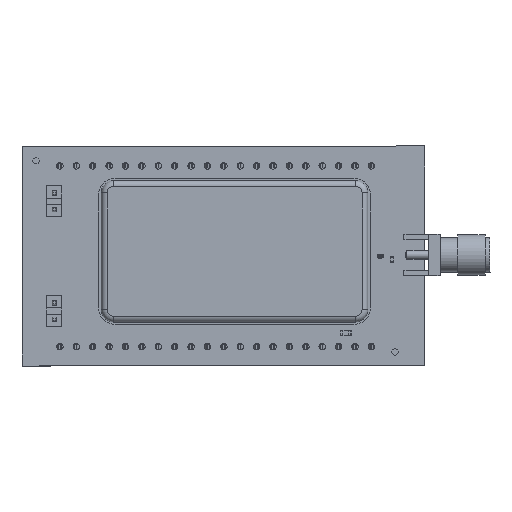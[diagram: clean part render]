
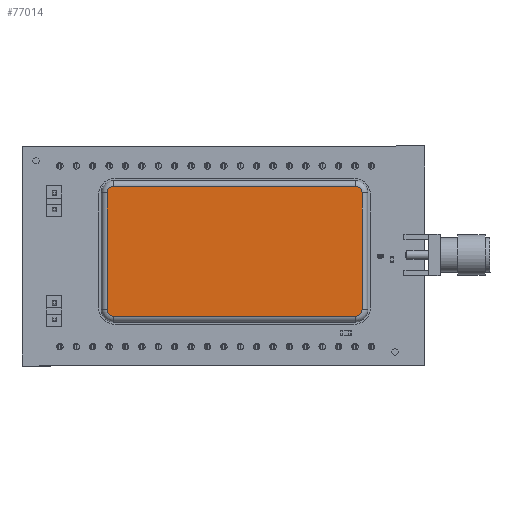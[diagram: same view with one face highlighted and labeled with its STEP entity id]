
A CAD part, top view. The second image highlights one B-rep face of the part: STEP entity #77014.
In plain terms, the highlighted planar face has unit normal (0, 0, 1) as drawn and (0, 1, 0) by its records, which use the part's own axes.
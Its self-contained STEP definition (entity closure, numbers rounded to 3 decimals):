
#77014 = ADVANCED_FACE('',(#77015),#77085,.F.);
#77015 = FACE_BOUND('',#77016,.T.);
#77016 = EDGE_LOOP('',(#77017,#77028,#77036,#77045,#77053,#77062,#77070,
    #77079));
#77017 = ORIENTED_EDGE('',*,*,#77018,.T.);
#77018 = EDGE_CURVE('',#77019,#77021,#77023,.T.);
#77019 = VERTEX_POINT('',#77020);
#77020 = CARTESIAN_POINT('',(10.05,0.2,-18.75));
#77021 = VERTEX_POINT('',#77022);
#77022 = CARTESIAN_POINT('',(9.05,0.2,-19.75));
#77023 = CIRCLE('',#77024,1.);
#77024 = AXIS2_PLACEMENT_3D('',#77025,#77026,#77027);
#77025 = CARTESIAN_POINT('',(9.05,0.2,-18.75));
#77026 = DIRECTION('',(0.,1.,0.));
#77027 = DIRECTION('',(1.,0.,0.));
#77028 = ORIENTED_EDGE('',*,*,#77029,.T.);
#77029 = EDGE_CURVE('',#77021,#77030,#77032,.T.);
#77030 = VERTEX_POINT('',#77031);
#77031 = CARTESIAN_POINT('',(-9.05,0.2,-19.75));
#77032 = LINE('',#77033,#77034);
#77033 = CARTESIAN_POINT('',(9.05,0.2,-19.75));
#77034 = VECTOR('',#77035,1.);
#77035 = DIRECTION('',(-1.,0.,0.));
#77036 = ORIENTED_EDGE('',*,*,#77037,.F.);
#77037 = EDGE_CURVE('',#77038,#77030,#77040,.T.);
#77038 = VERTEX_POINT('',#77039);
#77039 = CARTESIAN_POINT('',(-10.05,0.2,-18.75));
#77040 = CIRCLE('',#77041,1.);
#77041 = AXIS2_PLACEMENT_3D('',#77042,#77043,#77044);
#77042 = CARTESIAN_POINT('',(-9.05,0.2,-18.75));
#77043 = DIRECTION('',(0.,-1.,0.));
#77044 = DIRECTION('',(-1.,0.,0.));
#77045 = ORIENTED_EDGE('',*,*,#77046,.F.);
#77046 = EDGE_CURVE('',#77047,#77038,#77049,.T.);
#77047 = VERTEX_POINT('',#77048);
#77048 = CARTESIAN_POINT('',(-10.05,0.2,18.75));
#77049 = LINE('',#77050,#77051);
#77050 = CARTESIAN_POINT('',(-10.05,0.2,0.));
#77051 = VECTOR('',#77052,1.);
#77052 = DIRECTION('',(0.,0.,-1.));
#77053 = ORIENTED_EDGE('',*,*,#77054,.T.);
#77054 = EDGE_CURVE('',#77047,#77055,#77057,.T.);
#77055 = VERTEX_POINT('',#77056);
#77056 = CARTESIAN_POINT('',(-9.05,0.2,19.75));
#77057 = CIRCLE('',#77058,1.);
#77058 = AXIS2_PLACEMENT_3D('',#77059,#77060,#77061);
#77059 = CARTESIAN_POINT('',(-9.05,0.2,18.75));
#77060 = DIRECTION('',(0.,1.,0.));
#77061 = DIRECTION('',(-1.,0.,0.));
#77062 = ORIENTED_EDGE('',*,*,#77063,.F.);
#77063 = EDGE_CURVE('',#77064,#77055,#77066,.T.);
#77064 = VERTEX_POINT('',#77065);
#77065 = CARTESIAN_POINT('',(9.05,0.2,19.75));
#77066 = LINE('',#77067,#77068);
#77067 = CARTESIAN_POINT('',(9.05,0.2,19.75));
#77068 = VECTOR('',#77069,1.);
#77069 = DIRECTION('',(-1.,0.,0.));
#77070 = ORIENTED_EDGE('',*,*,#77071,.F.);
#77071 = EDGE_CURVE('',#77072,#77064,#77074,.T.);
#77072 = VERTEX_POINT('',#77073);
#77073 = CARTESIAN_POINT('',(10.05,0.2,18.75));
#77074 = CIRCLE('',#77075,1.);
#77075 = AXIS2_PLACEMENT_3D('',#77076,#77077,#77078);
#77076 = CARTESIAN_POINT('',(9.05,0.2,18.75));
#77077 = DIRECTION('',(0.,-1.,0.));
#77078 = DIRECTION('',(1.,0.,0.));
#77079 = ORIENTED_EDGE('',*,*,#77080,.T.);
#77080 = EDGE_CURVE('',#77072,#77019,#77081,.T.);
#77081 = LINE('',#77082,#77083);
#77082 = CARTESIAN_POINT('',(10.05,0.2,0.));
#77083 = VECTOR('',#77084,1.);
#77084 = DIRECTION('',(0.,0.,-1.));
#77085 = PLANE('',#77086);
#77086 = AXIS2_PLACEMENT_3D('',#77087,#77088,#77089);
#77087 = CARTESIAN_POINT('',(9.05,0.2,-18.75));
#77088 = DIRECTION('',(0.,-1.,0.));
#77089 = DIRECTION('',(0.,0.,-1.));
